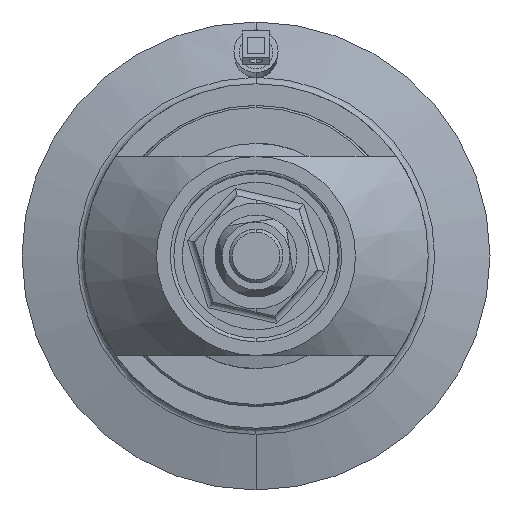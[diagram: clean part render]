
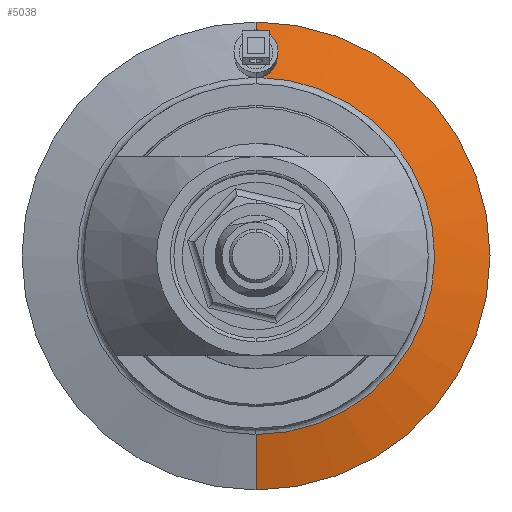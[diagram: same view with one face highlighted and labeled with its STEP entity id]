
A CAD part, front view. The second image highlights one B-rep face of the part: STEP entity #5038.
In plain terms, the highlighted conical face has half-angle 75 degrees and reference radius 54.458 mm.
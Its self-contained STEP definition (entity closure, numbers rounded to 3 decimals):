
#1240 = VERTEX_POINT ( 'NONE', #2861 ) ;
#1256 = VERTEX_POINT ( 'NONE', #2856 ) ;
#1271 = VERTEX_POINT ( 'NONE', #2852 ) ;
#1354 = VERTEX_POINT ( 'NONE', #2829 ) ;
#2193 = DIRECTION ( 'NONE',  ( 0., 0., 1. ) ) ;
#2194 = DIRECTION ( 'NONE',  ( 0., 1., 0. ) ) ;
#2195 = CARTESIAN_POINT ( 'NONE',  ( 0., 158.09, 0. ) ) ;
#2232 = CARTESIAN_POINT ( 'NONE',  ( 0.653, 154.635, 41.56 ) ) ;
#2233 = CARTESIAN_POINT ( 'NONE',  ( 0.959, 154.647, 41.6 ) ) ;
#2234 = CARTESIAN_POINT ( 'NONE',  ( 1.257, 154.667, 41.667 ) ) ;
#2235 = CARTESIAN_POINT ( 'NONE',  ( 1.837, 154.723, 41.852 ) ) ;
#2240 = CARTESIAN_POINT ( 'NONE',  ( 2.121, 154.758, 41.973 ) ) ;
#2241 = CARTESIAN_POINT ( 'NONE',  ( 2.655, 154.843, 42.26 ) ) ;
#2242 = CARTESIAN_POINT ( 'NONE',  ( 2.905, 154.892, 42.427 ) ) ;
#2243 = CARTESIAN_POINT ( 'NONE',  ( 3.373, 155.002, 42.804 ) ) ;
#2248 = CARTESIAN_POINT ( 'NONE',  ( 3.592, 155.064, 43.017 ) ) ;
#2249 = CARTESIAN_POINT ( 'NONE',  ( 3.977, 155.195, 43.472 ) ) ;
#2250 = CARTESIAN_POINT ( 'NONE',  ( 4.147, 155.264, 43.716 ) ) ;
#2251 = CARTESIAN_POINT ( 'NONE',  ( 4.44, 155.41, 44.235 ) ) ;
#2256 = CARTESIAN_POINT ( 'NONE',  ( 4.561, 155.487, 44.51 ) ) ;
#2257 = CARTESIAN_POINT ( 'NONE',  ( 4.745, 155.641, 45.07 ) ) ;
#2258 = CARTESIAN_POINT ( 'NONE',  ( 4.811, 155.719, 45.357 ) ) ;
#2259 = CARTESIAN_POINT ( 'NONE',  ( 4.885, 155.879, 45.949 ) ) ;
#2260 = CARTESIAN_POINT ( 'NONE',  ( 4.893, 155.958, 46.245 ) ) ;
#2261 = CARTESIAN_POINT ( 'NONE',  ( 4.852, 156.114, 46.832 ) ) ;
#2262 = CARTESIAN_POINT ( 'NONE',  ( 4.803, 156.191, 47.127 ) ) ;
#2263 = CARTESIAN_POINT ( 'NONE',  ( 4.648, 156.34, 47.703 ) ) ;
#2264 = CARTESIAN_POINT ( 'NONE',  ( 4.543, 156.412, 47.981 ) ) ;
#2265 = CARTESIAN_POINT ( 'NONE',  ( 4.282, 156.548, 48.515 ) ) ;
#2266 = CARTESIAN_POINT ( 'NONE',  ( 4.123, 156.613, 48.774 ) ) ;
#2267 = CARTESIAN_POINT ( 'NONE',  ( 3.762, 156.733, 49.253 ) ) ;
#2268 = CARTESIAN_POINT ( 'NONE',  ( 3.56, 156.789, 49.475 ) ) ;
#2270 = CARTESIAN_POINT ( 'NONE',  ( 3.114, 156.889, 49.881 ) ) ;
#2271 = CARTESIAN_POINT ( 'NONE',  ( 2.867, 156.935, 50.065 ) ) ;
#2272 = CARTESIAN_POINT ( 'NONE',  ( 2.352, 157.012, 50.382 ) ) ;
#2274 = CARTESIAN_POINT ( 'NONE',  ( 2.08, 157.045, 50.517 ) ) ;
#2275 = CARTESIAN_POINT ( 'NONE',  ( 1.509, 157.098, 50.736 ) ) ;
#2277 = CARTESIAN_POINT ( 'NONE',  ( 1.212, 157.118, 50.82 ) ) ;
#2278 = CARTESIAN_POINT ( 'NONE',  ( 0.613, 157.145, 50.93 ) ) ;
#2279 = CARTESIAN_POINT ( 'NONE',  ( 0.309, 157.152, 50.959 ) ) ;
#2280 = CARTESIAN_POINT ( 'NONE',  ( 0., 157.152, 50.959 ) ) ;
#2294 = DIRECTION ( 'NONE',  ( 0., 0.259, 0.966 ) ) ;
#2295 = CARTESIAN_POINT ( 'NONE',  ( 0., 158.09, 54.458 ) ) ;
#2311 = DIRECTION ( 'NONE',  ( -1., 0., 0. ) ) ;
#2312 = DIRECTION ( 'NONE',  ( 0., 1., 0. ) ) ;
#2313 = CARTESIAN_POINT ( 'NONE',  ( 0., 158.09, 0. ) ) ;
#2315 = DIRECTION ( 'NONE',  ( 0., 0.259, -0.966 ) ) ;
#2317 = CARTESIAN_POINT ( 'NONE',  ( 0., 158.09, -54.458 ) ) ;
#2502 = DIRECTION ( 'NONE',  ( -1., 0., 0. ) ) ;
#2503 = DIRECTION ( 'NONE',  ( 0., 1., 0. ) ) ;
#2504 = CARTESIAN_POINT ( 'NONE',  ( 0., 158.09, 0. ) ) ;
#2511 = DIRECTION ( 'NONE',  ( 0., 0., 1. ) ) ;
#2513 = DIRECTION ( 'NONE',  ( 0., 1., 0. ) ) ;
#2514 = CARTESIAN_POINT ( 'NONE',  ( 0., 154.635, 0. ) ) ;
#2829 = CARTESIAN_POINT ( 'NONE',  ( 54.458, 158.09, 0. ) ) ;
#2852 = CARTESIAN_POINT ( 'NONE',  ( 0., 154.635, -41.566 ) ) ;
#2856 = CARTESIAN_POINT ( 'NONE',  ( 0.653, 154.635, 41.56 ) ) ;
#2861 = CARTESIAN_POINT ( 'NONE',  ( 0., 157.152, 50.959 ) ) ;
#3453 = ORIENTED_EDGE ( 'NONE', *, *, #4988, .T. ) ;
#3458 = ORIENTED_EDGE ( 'NONE', *, *, #5017, .T. ) ;
#3471 = ORIENTED_EDGE ( 'NONE', *, *, #5018, .F. ) ;
#3485 = ORIENTED_EDGE ( 'NONE', *, *, #4991, .F. ) ;
#3491 = ORIENTED_EDGE ( 'NONE', *, *, #5022, .F. ) ;
#3495 = ORIENTED_EDGE ( 'NONE', *, *, #5025, .T. ) ;
#4185 = CARTESIAN_POINT ( 'NONE',  ( 0., 158.09, 54.458 ) ) ;
#4194 = CARTESIAN_POINT ( 'NONE',  ( 0., 158.09, -54.458 ) ) ;
#4717 = AXIS2_PLACEMENT_3D ( 'NONE', #2195, #2194, #2193 ) ;
#4728 = AXIS2_PLACEMENT_3D ( 'NONE', #2313, #2312, #2311 ) ;
#4743 = AXIS2_PLACEMENT_3D ( 'NONE', #2504, #2503, #2502 ) ;
#4746 = AXIS2_PLACEMENT_3D ( 'NONE', #2514, #2513, #2511 ) ;
#4988 = EDGE_CURVE ( 'NONE', #1256, #1271, #5121, .T. ) ;
#4991 = EDGE_CURVE ( 'NONE', #5590, #1354, #5125, .T. ) ;
#5017 = EDGE_CURVE ( 'NONE', #1271, #5581, #5157, .T. ) ;
#5018 = EDGE_CURVE ( 'NONE', #1354, #5581, #5159, .T. ) ;
#5022 = EDGE_CURVE ( 'NONE', #1240, #5590, #5164, .T. ) ;
#5025 = EDGE_CURVE ( 'NONE', #1240, #1256, #5276, .T. ) ;
#5038 = ADVANCED_FACE ( 'NONE', ( #5186 ), #5188, .T. ) ;
#5121 = CIRCLE ( 'NONE', #4746, 41.566 ) ;
#5125 = CIRCLE ( 'NONE', #4743, 54.458 ) ;
#5157 = LINE ( 'NONE', #2317, #5158 ) ;
#5158 = VECTOR ( 'NONE', #2315, 1000. ) ;
#5159 = CIRCLE ( 'NONE', #4728, 54.458 ) ;
#5164 = LINE ( 'NONE', #2295, #5165 ) ;
#5165 = VECTOR ( 'NONE', #2294, 1000. ) ;
#5186 = FACE_OUTER_BOUND ( 'NONE', #5925, .T. ) ;
#5188 = CONICAL_SURFACE ( 'NONE', #4717, 54.458, 1.309 ) ;
#5276 = B_SPLINE_CURVE_WITH_KNOTS ( 'NONE', 3,
 ( #2280, #2279, #2278, #2277, #2275, #2274, #2272, #2271, #2270, #2268, #2267, #2266, #2265, #2264, #2263, #2262, #2261, #2260, #2259, #2258, #2257, #2256, #2251, #2250, #2249, #2248, #2243, #2242, #2241, #2240, #2235, #2234, #2233, #2232 ),
 .UNSPECIFIED., .F., .F.,
 ( 4, 2, 2, 2, 2, 2, 2, 2, 2, 2, 2, 2, 2, 2, 2, 2, 4 ),
 ( 0., 0.001, 0.002, 0.003, 0.004, 0.005, 0.005, 0.006, 0.007, 0.008, 0.009, 0.01, 0.011, 0.012, 0.013, 0.014, 0.015 ),
 .UNSPECIFIED. ) ;
#5581 = VERTEX_POINT ( 'NONE', #4194 ) ;
#5590 = VERTEX_POINT ( 'NONE', #4185 ) ;
#5925 = EDGE_LOOP ( 'NONE', ( #3453, #3458, #3471, #3485, #3491, #3495 ) ) ;
